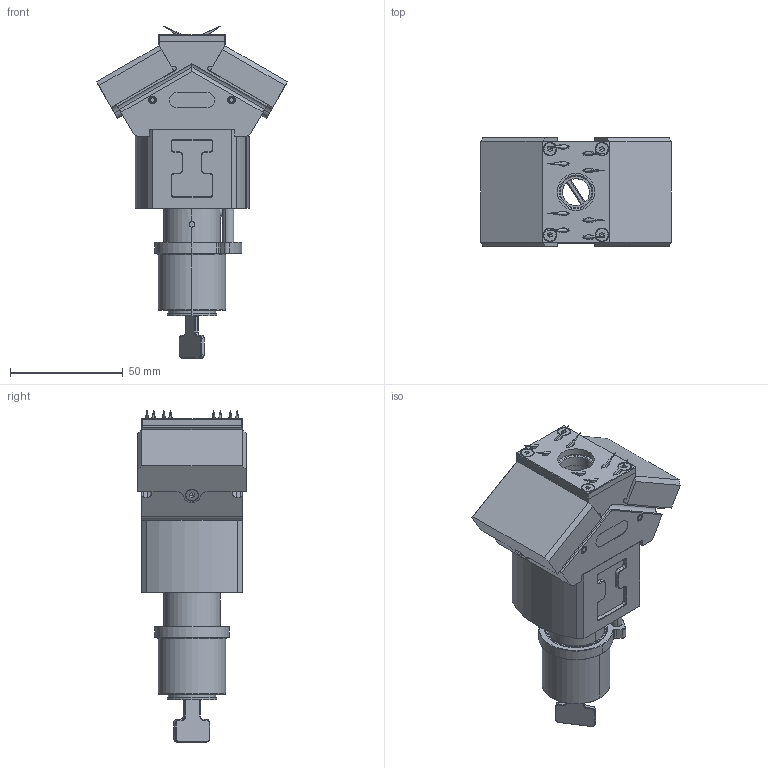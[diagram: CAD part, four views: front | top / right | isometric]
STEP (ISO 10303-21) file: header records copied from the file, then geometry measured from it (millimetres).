
FILE_DESCRIPTION (( 'STEP AP214' ), '1' );
FILE_NAME ('GN3003-8-15模型数据.STEP', '2025-01-03T09:22:12', ( '微软用户' ), ( '微软中国' ), 'SwSTEP 2.0', 'SolidWorks 2018', '' );
FILE_SCHEMA (( 'AUTOMOTIVE_DESIGN' ));
Length unit declared in the file: millimetre
Products named in the file (32): GN3003-8-15耀倰杅擂.sldasm-Part-2; GN3003-8-15耀倰杅擂.sldasm-Part-21; GN3003-8-15耀倰杅擂.sldasm-Part-1; GN3003-8-15耀倰杅擂.sldasm-Part-20; GN3003-8-15耀倰杅擂.sldasm-Part-19; GN3003-8-15耀倰杅擂; GN3003-8-15耀倰杅擂.sldasm-Part-18; GN3003-8-15耀倰杅擂.sldasm-Part-17; GN3003-8-15耀倰杅擂.sldasm-Part-16; GN3003-8-15耀倰杅擂.sldasm-Part-15; GN3003-8-15耀倰杅擂.sldasm-Part-14; GN3003-8-15耀倰杅擂.sldasm-Part-13; GN3003-8-15耀倰杅擂.sldasm-Part-12; GN3003-8-15耀倰杅擂.sldasm-Part-31; GN3003-8-15耀倰杅擂.sldasm-Part-11; GN3003-8-15耀倰杅擂.sldasm-Part-30; GN3003-8-15耀倰杅擂.sldasm-Part-10; GN3003-8-15耀倰杅擂.sldasm-Part-29; GN3003-8-15耀倰杅擂.sldasm-Part-9; GN3003-8-15耀倰杅擂.sldasm-Part-28; GN3003-8-15耀倰杅擂.sldasm-Part-8; GN3003-8-15耀倰杅擂.sldasm-Part-27; GN3003-8-15耀倰杅擂.sldasm-Part-7; GN3003-8-15耀倰杅擂.sldasm-Part-26; GN3003-8-15耀倰杅擂.sldasm-Part-6; GN3003-8-15耀倰杅擂.sldasm-Part-25; GN3003-8-15耀倰杅擂.sldasm-Part-5; GN3003-8-15耀倰杅擂.sldasm-Part-24; GN3003-8-15耀倰杅擂.sldasm-Part-4; GN3003-8-15耀倰杅擂.sldasm-Part-23; GN3003-8-15耀倰杅擂.sldasm-Part-3; GN3003-8-15耀倰杅擂.sldasm-Part-22
Assembly tree (31 placements, depth 2):
  GN3003-8-15耀倰杅擂
    GN3003-8-15耀倰杅擂.sldasm-Part-1
    GN3003-8-15耀倰杅擂.sldasm-Part-2
    GN3003-8-15耀倰杅擂.sldasm-Part-3
    GN3003-8-15耀倰杅擂.sldasm-Part-4
    GN3003-8-15耀倰杅擂.sldasm-Part-5
    GN3003-8-15耀倰杅擂.sldasm-Part-6
    GN3003-8-15耀倰杅擂.sldasm-Part-7
    GN3003-8-15耀倰杅擂.sldasm-Part-8
    GN3003-8-15耀倰杅擂.sldasm-Part-9
    GN3003-8-15耀倰杅擂.sldasm-Part-10
    GN3003-8-15耀倰杅擂.sldasm-Part-11
    GN3003-8-15耀倰杅擂.sldasm-Part-12
    GN3003-8-15耀倰杅擂.sldasm-Part-13
    GN3003-8-15耀倰杅擂.sldasm-Part-14
    GN3003-8-15耀倰杅擂.sldasm-Part-15
    GN3003-8-15耀倰杅擂.sldasm-Part-16
    GN3003-8-15耀倰杅擂.sldasm-Part-17
    GN3003-8-15耀倰杅擂.sldasm-Part-18
    GN3003-8-15耀倰杅擂.sldasm-Part-19
    GN3003-8-15耀倰杅擂.sldasm-Part-20
    GN3003-8-15耀倰杅擂.sldasm-Part-21
    GN3003-8-15耀倰杅擂.sldasm-Part-22
    GN3003-8-15耀倰杅擂.sldasm-Part-23
    GN3003-8-15耀倰杅擂.sldasm-Part-24
    GN3003-8-15耀倰杅擂.sldasm-Part-25
    GN3003-8-15耀倰杅擂.sldasm-Part-26
    GN3003-8-15耀倰杅擂.sldasm-Part-27
    GN3003-8-15耀倰杅擂.sldasm-Part-28
    GN3003-8-15耀倰杅擂.sldasm-Part-29
    GN3003-8-15耀倰杅擂.sldasm-Part-30
    GN3003-8-15耀倰杅擂.sldasm-Part-31
Bounding box: 84.5 x 48 x 147 mm (x, y, z)
Volume: 155797.8 mm3; surface area: 93765.6 mm2
Topology: 31 solids, 31 shells, 1291 faces, 3191 edges, 1959 vertices
Faces by surface type: plane 622, cylinder 392, cone 212, torus 55, sphere 8, bspline 2
Entity records: 40108 total; most frequent: CARTESIAN_POINT 7691, DIRECTION 6648, ORIENTED_EDGE 6290, EDGE_CURVE 3145, AXIS2_PLACEMENT_3D 2368, VERTEX_POINT 1955, VECTOR 1912, LINE 1912
